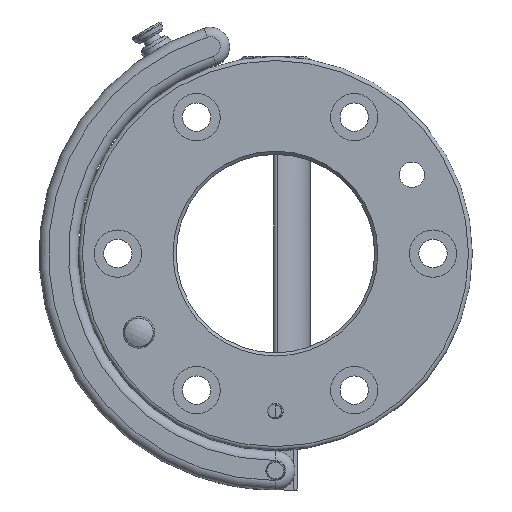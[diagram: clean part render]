
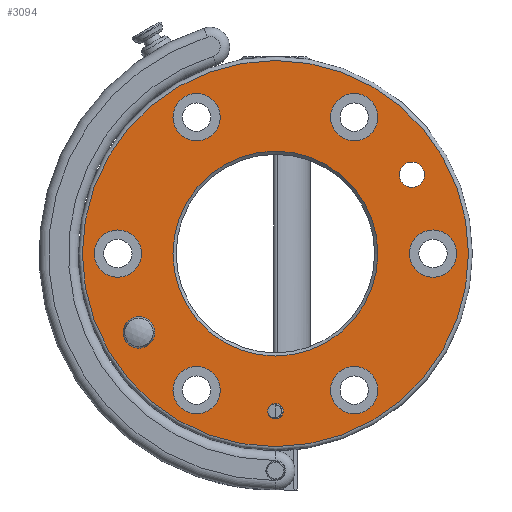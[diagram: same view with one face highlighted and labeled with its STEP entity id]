
A CAD part, front view. The second image highlights one B-rep face of the part: STEP entity #3094.
In plain terms, the highlighted planar face has unit normal (0, -1, 0).
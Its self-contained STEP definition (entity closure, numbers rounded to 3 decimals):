
#84=CARTESIAN_POINT('',(-100.487,-21.408,6.884));
#85=VERTEX_POINT('',#84);
#86=CARTESIAN_POINT('',(-95.487,-21.408,6.884));
#87=DIRECTION('',(0.0,1.0,0.0));
#88=DIRECTION('',(-1.0,0.0,0.0));
#89=AXIS2_PLACEMENT_3D('',#86,#87,#88);
#90=CIRCLE('',#89,5.0);
#91=EDGE_CURVE('',#85,#85,#90,.T.);
#2886=CARTESIAN_POINT('',(9.064,-21.408,31.884));
#2887=VERTEX_POINT('',#2886);
#2888=CARTESIAN_POINT('',(-52.186,-21.408,31.884));
#2889=DIRECTION('',(0.0,1.0,0.0));
#2890=DIRECTION('',(-1.0,0.0,0.0));
#2891=AXIS2_PLACEMENT_3D('',#2888,#2889,#2890);
#2892=CIRCLE('',#2891,61.25);
#2893=EDGE_CURVE('',#2887,#2887,#2892,.T.);
#2984=CARTESIAN_POINT('',(-52.186,-21.408,31.884));
#2985=DIRECTION('',(0.0,-1.0,0.0));
#2986=DIRECTION('',(-1.0,0.0,0.0));
#2987=AXIS2_PLACEMENT_3D('',#2984,#2985,#2986);
#2988=PLANE('',#2987);
#2989=ORIENTED_EDGE('',*,*,#2893,.F.);
#2990=EDGE_LOOP('',(#2989));
#2991=FACE_OUTER_BOUND('',#2990,.T.);
#2992=ORIENTED_EDGE('',*,*,#91,.T.);
#2993=EDGE_LOOP('',(#2992));
#2994=FACE_BOUND('',#2993,.T.);
#2995=CARTESIAN_POINT('',(-19.686,-21.408,31.884));
#2996=VERTEX_POINT('',#2995);
#2997=CARTESIAN_POINT('',(-52.186,-21.408,31.884));
#2998=DIRECTION('',(0.0,-1.0,0.0));
#2999=DIRECTION('',(-1.0,0.0,0.0));
#3000=AXIS2_PLACEMENT_3D('',#2997,#2998,#2999);
#3001=CIRCLE('',#3000,32.5);
#3002=EDGE_CURVE('',#2996,#2996,#3001,.T.);
#3003=ORIENTED_EDGE('',*,*,#3002,.F.);
#3004=EDGE_LOOP('',(#3003));
#3005=FACE_BOUND('',#3004,.T.);
#3006=CARTESIAN_POINT('',(-84.686,-21.408,75.185));
#3007=VERTEX_POINT('',#3006);
#3008=CARTESIAN_POINT('',(-77.186,-21.408,75.185));
#3009=DIRECTION('',(0.0,1.0,0.0));
#3010=DIRECTION('',(-1.0,0.0,0.0));
#3011=AXIS2_PLACEMENT_3D('',#3008,#3009,#3010);
#3012=CIRCLE('',#3011,7.5);
#3013=EDGE_CURVE('',#3007,#3007,#3012,.T.);
#3014=ORIENTED_EDGE('',*,*,#3013,.T.);
#3015=EDGE_LOOP('',(#3014));
#3016=FACE_BOUND('',#3015,.T.);
#3017=CARTESIAN_POINT('',(-34.686,-21.408,75.185));
#3018=VERTEX_POINT('',#3017);
#3019=CARTESIAN_POINT('',(-27.186,-21.408,75.185));
#3020=DIRECTION('',(0.0,1.0,0.0));
#3021=DIRECTION('',(-1.0,0.0,0.0));
#3022=AXIS2_PLACEMENT_3D('',#3019,#3020,#3021);
#3023=CIRCLE('',#3022,7.5);
#3024=EDGE_CURVE('',#3018,#3018,#3023,.T.);
#3025=ORIENTED_EDGE('',*,*,#3024,.T.);
#3026=EDGE_LOOP('',(#3025));
#3027=FACE_BOUND('',#3026,.T.);
#3028=CARTESIAN_POINT('',(-9.686,-21.408,31.884));
#3029=VERTEX_POINT('',#3028);
#3030=CARTESIAN_POINT('',(-2.186,-21.408,31.884));
#3031=DIRECTION('',(0.0,1.0,0.0));
#3032=DIRECTION('',(-1.0,0.0,0.0));
#3033=AXIS2_PLACEMENT_3D('',#3030,#3031,#3032);
#3034=CIRCLE('',#3033,7.5);
#3035=EDGE_CURVE('',#3029,#3029,#3034,.T.);
#3036=ORIENTED_EDGE('',*,*,#3035,.T.);
#3037=EDGE_LOOP('',(#3036));
#3038=FACE_BOUND('',#3037,.T.);
#3039=CARTESIAN_POINT('',(-34.686,-21.408,-11.417));
#3040=VERTEX_POINT('',#3039);
#3041=CARTESIAN_POINT('',(-27.186,-21.408,-11.417));
#3042=DIRECTION('',(0.0,1.0,0.0));
#3043=DIRECTION('',(-1.0,0.0,0.0));
#3044=AXIS2_PLACEMENT_3D('',#3041,#3042,#3043);
#3045=CIRCLE('',#3044,7.5);
#3046=EDGE_CURVE('',#3040,#3040,#3045,.T.);
#3047=ORIENTED_EDGE('',*,*,#3046,.T.);
#3048=EDGE_LOOP('',(#3047));
#3049=FACE_BOUND('',#3048,.T.);
#3050=CARTESIAN_POINT('',(-84.686,-21.408,-11.417));
#3051=VERTEX_POINT('',#3050);
#3052=CARTESIAN_POINT('',(-77.186,-21.408,-11.417));
#3053=DIRECTION('',(0.0,1.0,0.0));
#3054=DIRECTION('',(-1.0,0.0,0.0));
#3055=AXIS2_PLACEMENT_3D('',#3052,#3053,#3054);
#3056=CIRCLE('',#3055,7.5);
#3057=EDGE_CURVE('',#3051,#3051,#3056,.T.);
#3058=ORIENTED_EDGE('',*,*,#3057,.T.);
#3059=EDGE_LOOP('',(#3058));
#3060=FACE_BOUND('',#3059,.T.);
#3061=CARTESIAN_POINT('',(-109.686,-21.408,31.884));
#3062=VERTEX_POINT('',#3061);
#3063=CARTESIAN_POINT('',(-102.186,-21.408,31.884));
#3064=DIRECTION('',(0.0,1.0,0.0));
#3065=DIRECTION('',(-1.0,0.0,0.0));
#3066=AXIS2_PLACEMENT_3D('',#3063,#3064,#3065);
#3067=CIRCLE('',#3066,7.5);
#3068=EDGE_CURVE('',#3062,#3062,#3067,.T.);
#3069=ORIENTED_EDGE('',*,*,#3068,.T.);
#3070=EDGE_LOOP('',(#3069));
#3071=FACE_BOUND('',#3070,.T.);
#3072=CARTESIAN_POINT('',(-54.644,-21.408,-18.116));
#3073=VERTEX_POINT('',#3072);
#3074=CARTESIAN_POINT('',(-52.186,-21.408,-18.116));
#3075=DIRECTION('',(0.0,1.0,0.0));
#3076=DIRECTION('',(1.0,0.0,0.0));
#3077=AXIS2_PLACEMENT_3D('',#3074,#3075,#3076);
#3078=CIRCLE('',#3077,2.459);
#3079=EDGE_CURVE('',#3073,#3073,#3078,.T.);
#3080=ORIENTED_EDGE('',*,*,#3079,.T.);
#3081=EDGE_LOOP('',(#3080));
#3082=FACE_BOUND('',#3081,.T.);
#3083=CARTESIAN_POINT('',(-12.885,-21.408,56.884));
#3084=VERTEX_POINT('',#3083);
#3085=CARTESIAN_POINT('',(-8.885,-21.408,56.884));
#3086=DIRECTION('',(0.0,1.0,0.0));
#3087=DIRECTION('',(1.0,0.0,0.0));
#3088=AXIS2_PLACEMENT_3D('',#3085,#3086,#3087);
#3089=CIRCLE('',#3088,4.0);
#3090=EDGE_CURVE('',#3084,#3084,#3089,.T.);
#3091=ORIENTED_EDGE('',*,*,#3090,.T.);
#3092=EDGE_LOOP('',(#3091));
#3093=FACE_BOUND('',#3092,.T.);
#3094=ADVANCED_FACE('',(#2991,#2994,#3005,#3016,#3027,#3038,#3049,#3060,#3071,#3082,#3093),#2988,.T.);
